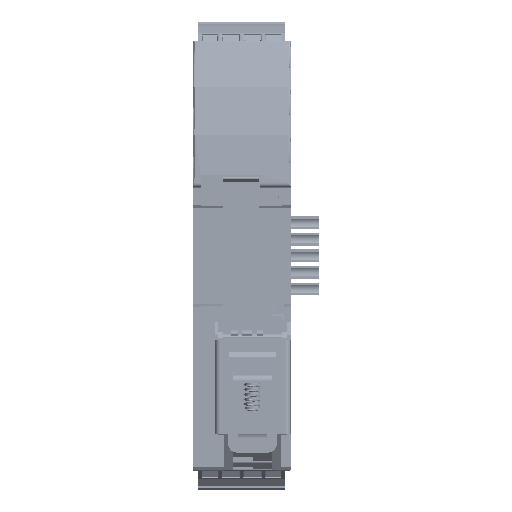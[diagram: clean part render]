
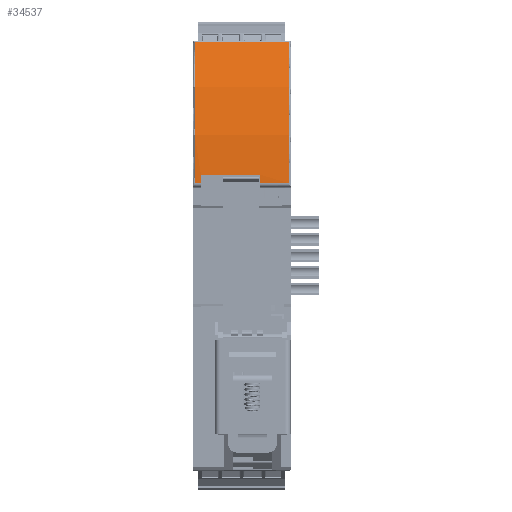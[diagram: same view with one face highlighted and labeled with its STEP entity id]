
A CAD part, left-side view. The second image highlights one B-rep face of the part: STEP entity #34537.
In plain terms, the highlighted cylindrical face has radius 80 mm (diameter 160 mm), a partial arc.
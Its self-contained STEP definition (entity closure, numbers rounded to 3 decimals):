
#34537=ADVANCED_FACE('',(#101533),#101535,.T.);
#101533=FACE_BOUND('',#101534,.T.);
#101534=EDGE_LOOP('',(#167256,#167257,#167258,#167259,#167260,#167261,#167262,#167263));
#101535=CYLINDRICAL_SURFACE('',#101536,80.);
#101536=AXIS2_PLACEMENT_3D('',#101537,#101538,#101539);
#101537=CARTESIAN_POINT('',(75.75,12.1,13.5));
#101538=DIRECTION('',(0.,-1.,0.));
#101539=DIRECTION('',(0.,0.,-1.));
#167256=ORIENTED_EDGE('',*,*,#205137,.F.);
#167257=ORIENTED_EDGE('',*,*,#205144,.T.);
#167258=ORIENTED_EDGE('',*,*,#205145,.F.);
#167259=ORIENTED_EDGE('',*,*,#203166,.F.);
#167260=ORIENTED_EDGE('',*,*,#203163,.T.);
#167261=ORIENTED_EDGE('',*,*,#205146,.T.);
#167262=ORIENTED_EDGE('',*,*,#202891,.T.);
#167263=ORIENTED_EDGE('',*,*,#202889,.T.);
#202889=EDGE_CURVE('',#233292,#233290,#233293,.T.);
#202891=EDGE_CURVE('',#233295,#233292,#233296,.T.);
#203163=EDGE_CURVE('',#233770,#233771,#233772,.T.);
#203166=EDGE_CURVE('',#233770,#233775,#233776,.T.);
#205137=EDGE_CURVE('',#236929,#233290,#236931,.T.);
#205144=EDGE_CURVE('',#236929,#236943,#236944,.T.);
#205145=EDGE_CURVE('',#233775,#236943,#236945,.T.);
#205146=EDGE_CURVE('',#233771,#233295,#236946,.T.);
#233290=VERTEX_POINT('',#296226);
#233292=VERTEX_POINT('',#296231);
#233293=LINE('',#296232,#296233);
#233295=VERTEX_POINT('',#296304);
#233296=CIRCLE('',#296305,80.);
#233770=VERTEX_POINT('',#297685);
#233771=VERTEX_POINT('',#297686);
#233772=CIRCLE('',#297687,80.);
#233775=VERTEX_POINT('',#297777);
#233776=LINE('',#297778,#297779);
#236929=VERTEX_POINT('',#306032);
#236931=CIRCLE('',#306036,80.);
#236943=VERTEX_POINT('',#306063);
#236944=LINE('',#306064,#306065);
#236945=CIRCLE('',#306067,80.);
#236946=LINE('',#306071,#306072);
#296226=CARTESIAN_POINT('',(-4.184,20.7,16.741));
#296231=CARTESIAN_POINT('',(-4.184,22.1,16.741));
#296232=CARTESIAN_POINT('',(-4.184,22.1,16.741));
#296233=VECTOR('',#296234,1.);
#296234=DIRECTION('',(0.,-1.,0.));
#296304=CARTESIAN_POINT('',(4.169,22.1,49.223));
#296305=AXIS2_PLACEMENT_3D('',#296306,#296307,#296308);
#296306=CARTESIAN_POINT('',(75.75,22.1,13.5));
#296307=DIRECTION('',(0.,-1.,0.));
#296308=DIRECTION('',(-0.895,0.,0.447));
#297685=CARTESIAN_POINT('',(-4.184,0.5,16.741));
#297686=CARTESIAN_POINT('',(4.169,0.5,49.223));
#297687=AXIS2_PLACEMENT_3D('',#297688,#297689,#297690);
#297688=CARTESIAN_POINT('',(75.75,0.5,13.5));
#297689=DIRECTION('',(0.,1.,0.));
#297690=DIRECTION('',(-0.999,0.,0.041));
#297777=CARTESIAN_POINT('',(-4.184,7.1,16.741));
#297778=CARTESIAN_POINT('',(-4.184,0.5,16.741));
#297779=VECTOR('',#297780,1.);
#297780=DIRECTION('',(0.,1.,0.));
#306032=CARTESIAN_POINT('',(-4.081,20.7,18.7));
#306036=AXIS2_PLACEMENT_3D('',#306037,#306038,#306039);
#306037=CARTESIAN_POINT('',(75.75,20.7,13.5));
#306038=DIRECTION('',(0.,-1.,0.));
#306039=DIRECTION('',(-0.998,0.,0.065));
#306063=CARTESIAN_POINT('',(-4.081,7.1,18.7));
#306064=CARTESIAN_POINT('',(-4.081,20.7,18.7));
#306065=VECTOR('',#306066,1.);
#306066=DIRECTION('',(0.,-1.,0.));
#306067=AXIS2_PLACEMENT_3D('',#306068,#306069,#306070);
#306068=CARTESIAN_POINT('',(75.75,7.1,13.5));
#306069=DIRECTION('',(0.,1.,0.));
#306070=DIRECTION('',(-0.999,0.,0.041));
#306071=CARTESIAN_POINT('',(4.169,0.5,49.223));
#306072=VECTOR('',#306073,1.);
#306073=DIRECTION('',(0.,1.,0.));
